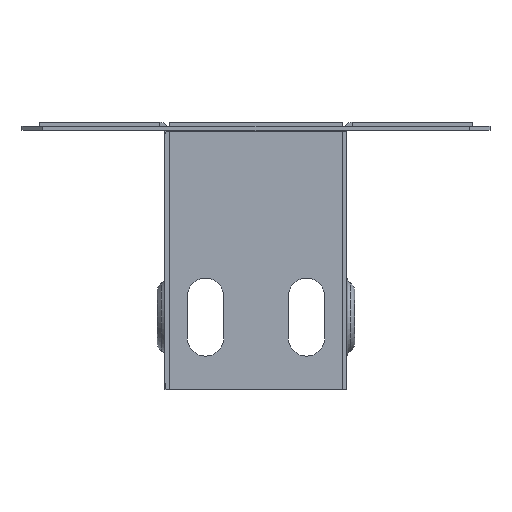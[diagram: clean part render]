
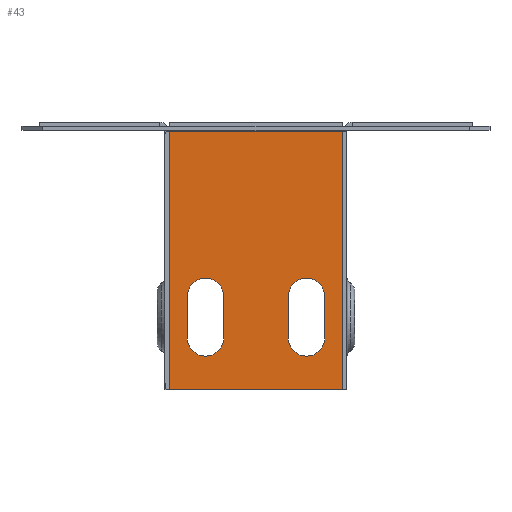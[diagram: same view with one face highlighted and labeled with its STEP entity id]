
A CAD part, left-side view. The second image highlights one B-rep face of the part: STEP entity #43.
In plain terms, the highlighted planar face has unit normal (-1, 0, 0) as drawn and (0, 1, 0) by its records, which use the part's own axes.
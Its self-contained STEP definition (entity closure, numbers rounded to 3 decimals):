
#43 = ADVANCED_FACE ( 'NONE', ( #6045, #4748, #2178 ), #6030, .F. ) ;
#45 = VERTEX_POINT ( 'NONE', #5421 ) ;
#141 = EDGE_CURVE ( 'NONE', #4843, #5959, #441, .T. ) ;
#195 = CARTESIAN_POINT ( 'NONE',  ( 9.7, 0.8, 41.5 ) ) ;
#273 = DIRECTION ( 'NONE',  ( 0., 0., 1. ) ) ;
#388 = DIRECTION ( 'NONE',  ( 0., 0., 1. ) ) ;
#436 = VECTOR ( 'NONE', #467, 1000. ) ;
#441 = CIRCLE ( 'NONE', #5817, 3.5 ) ;
#467 = DIRECTION ( 'NONE',  ( 0., 0., -1. ) ) ;
#468 = VERTEX_POINT ( 'NONE', #5717 ) ;
#499 = CARTESIAN_POINT ( 'NONE',  ( -16.7, 0.8, 0. ) ) ;
#601 = DIRECTION ( 'NONE',  ( 0., 0., -1. ) ) ;
#633 = EDGE_CURVE ( 'NONE', #4758, #3705, #5744, .T. ) ;
#673 = DIRECTION ( 'NONE',  ( 0., 0., 1. ) ) ;
#685 = CARTESIAN_POINT ( 'NONE',  ( -16.7, 0.8, 1.8 ) ) ;
#687 = EDGE_CURVE ( 'NONE', #2040, #4758, #5432, .T. ) ;
#897 = ORIENTED_EDGE ( 'NONE', *, *, #687, .T. ) ;
#985 = VECTOR ( 'NONE', #5908, 1000. ) ;
#1040 = VERTEX_POINT ( 'NONE', #3948 ) ;
#1041 = CARTESIAN_POINT ( 'NONE',  ( 13.2, 0.8, 33.5 ) ) ;
#1058 = ORIENTED_EDGE ( 'NONE', *, *, #1471, .F. ) ;
#1100 = DIRECTION ( 'NONE',  ( -1., 0., 0. ) ) ;
#1101 = CARTESIAN_POINT ( 'NONE',  ( 6.2, 0.8, 41.5 ) ) ;
#1219 = DIRECTION ( 'NONE',  ( 0., 0., 1. ) ) ;
#1227 = DIRECTION ( 'NONE',  ( 0., 1., 0. ) ) ;
#1245 = CARTESIAN_POINT ( 'NONE',  ( 9.7, 0.8, 41.5 ) ) ;
#1321 = CARTESIAN_POINT ( 'NONE',  ( 9.7, 0.8, 45. ) ) ;
#1334 = CARTESIAN_POINT ( 'NONE',  ( -6.2, 0.8, 41.5 ) ) ;
#1407 = VERTEX_POINT ( 'NONE', #2175 ) ;
#1471 = EDGE_CURVE ( 'NONE', #3485, #45, #3348, .T. ) ;
#1571 = EDGE_CURVE ( 'NONE', #2469, #1872, #5479, .T. ) ;
#1583 = DIRECTION ( 'NONE',  ( 0., 0., 1. ) ) ;
#1651 = DIRECTION ( 'NONE',  ( 0., 0., 1. ) ) ;
#1664 = VERTEX_POINT ( 'NONE', #685 ) ;
#1718 = EDGE_CURVE ( 'NONE', #1664, #45, #4704, .T. ) ;
#1738 = CARTESIAN_POINT ( 'NONE',  ( -13.2, 0.8, 41.5 ) ) ;
#1739 = ORIENTED_EDGE ( 'NONE', *, *, #5914, .F. ) ;
#1774 = DIRECTION ( 'NONE',  ( 0., 0., 1. ) ) ;
#1799 = DIRECTION ( 'NONE',  ( -1., 0., 0. ) ) ;
#1807 = ORIENTED_EDGE ( 'NONE', *, *, #2714, .F. ) ;
#1814 = CARTESIAN_POINT ( 'NONE',  ( 16.7, 0.8, 51.5 ) ) ;
#1815 = ORIENTED_EDGE ( 'NONE', *, *, #141, .T. ) ;
#1826 = DIRECTION ( 'NONE',  ( 0., -1., 0. ) ) ;
#1839 = DIRECTION ( 'NONE',  ( 0., 0., 1. ) ) ;
#1864 = AXIS2_PLACEMENT_3D ( 'NONE', #6062, #3159, #273 ) ;
#1872 = VERTEX_POINT ( 'NONE', #5605 ) ;
#1929 = LINE ( 'NONE', #1101, #4491 ) ;
#1956 = CARTESIAN_POINT ( 'NONE',  ( 13.2, 0.8, 41.5 ) ) ;
#2040 = VERTEX_POINT ( 'NONE', #5961 ) ;
#2175 = CARTESIAN_POINT ( 'NONE',  ( 6.2, 0.8, 33.5 ) ) ;
#2178 = FACE_BOUND ( 'NONE', #2254, .T. ) ;
#2208 = VECTOR ( 'NONE', #5704, 1000. ) ;
#2254 = EDGE_LOOP ( 'NONE', ( #1815, #2803, #897, #4538, #2334 ) ) ;
#2277 = LINE ( 'NONE', #1956, #985 ) ;
#2287 = CARTESIAN_POINT ( 'NONE',  ( 16.7, 0.8, 51.5 ) ) ;
#2334 = ORIENTED_EDGE ( 'NONE', *, *, #6117, .T. ) ;
#2469 = VERTEX_POINT ( 'NONE', #1321 ) ;
#2714 = EDGE_CURVE ( 'NONE', #1872, #2781, #2277, .T. ) ;
#2781 = VERTEX_POINT ( 'NONE', #1041 ) ;
#2803 = ORIENTED_EDGE ( 'NONE', *, *, #6111, .T. ) ;
#2966 = CIRCLE ( 'NONE', #5181, 3.5 ) ;
#2980 = EDGE_CURVE ( 'NONE', #1040, #3485, #3789, .T. ) ;
#3017 = DIRECTION ( 'NONE',  ( 0., -1., 0. ) ) ;
#3104 = ORIENTED_EDGE ( 'NONE', *, *, #2980, .F. ) ;
#3159 = DIRECTION ( 'NONE',  ( 0., 1., 0. ) ) ;
#3211 = CARTESIAN_POINT ( 'NONE',  ( 16.7, 0.8, 0. ) ) ;
#3348 = LINE ( 'NONE', #1814, #5931 ) ;
#3380 = CARTESIAN_POINT ( 'NONE',  ( -6.2, 0.8, 41.5 ) ) ;
#3485 = VERTEX_POINT ( 'NONE', #2287 ) ;
#3495 = LINE ( 'NONE', #1334, #2208 ) ;
#3571 = DIRECTION ( 'NONE',  ( 0., 1., 0. ) ) ;
#3705 = VERTEX_POINT ( 'NONE', #5870 ) ;
#3789 = LINE ( 'NONE', #3211, #4483 ) ;
#3820 = EDGE_CURVE ( 'NONE', #1040, #1664, #4548, .T. ) ;
#3880 = EDGE_CURVE ( 'NONE', #468, #2469, #2966, .T. ) ;
#3948 = CARTESIAN_POINT ( 'NONE',  ( 16.7, 0.8, 1.8 ) ) ;
#3994 = CARTESIAN_POINT ( 'NONE',  ( 16.7, 0.8, 1.8 ) ) ;
#4005 = EDGE_LOOP ( 'NONE', ( #1807, #4836, #4372, #6276, #1739 ) ) ;
#4192 = AXIS2_PLACEMENT_3D ( 'NONE', #6014, #3017, #601 ) ;
#4239 = AXIS2_PLACEMENT_3D ( 'NONE', #1245, #1227, #1219 ) ;
#4372 = ORIENTED_EDGE ( 'NONE', *, *, #3880, .F. ) ;
#4483 = VECTOR ( 'NONE', #1774, 1000. ) ;
#4491 = VECTOR ( 'NONE', #1583, 1000. ) ;
#4538 = ORIENTED_EDGE ( 'NONE', *, *, #633, .T. ) ;
#4548 = LINE ( 'NONE', #3994, #5847 ) ;
#4557 = VECTOR ( 'NONE', #388, 1000. ) ;
#4704 = LINE ( 'NONE', #499, #4557 ) ;
#4720 = CARTESIAN_POINT ( 'NONE',  ( -9.7, 0.8, 41.5 ) ) ;
#4748 = FACE_BOUND ( 'NONE', #4005, .T. ) ;
#4758 = VERTEX_POINT ( 'NONE', #5724 ) ;
#4836 = ORIENTED_EDGE ( 'NONE', *, *, #1571, .F. ) ;
#4843 = VERTEX_POINT ( 'NONE', #3380 ) ;
#4851 = CARTESIAN_POINT ( 'NONE',  ( -9.7, 0.8, 33.5 ) ) ;
#4915 = EDGE_LOOP ( 'NONE', ( #5364, #1058, #3104, #6049 ) ) ;
#5034 = CARTESIAN_POINT ( 'NONE',  ( -9.7, 0.8, 41.5 ) ) ;
#5052 = EDGE_CURVE ( 'NONE', #1407, #468, #1929, .T. ) ;
#5125 = CARTESIAN_POINT ( 'NONE',  ( -9.7, 0.8, 45. ) ) ;
#5181 = AXIS2_PLACEMENT_3D ( 'NONE', #195, #3571, #673 ) ;
#5202 = DIRECTION ( 'NONE',  ( 0., 0., 1. ) ) ;
#5364 = ORIENTED_EDGE ( 'NONE', *, *, #1718, .T. ) ;
#5421 = CARTESIAN_POINT ( 'NONE',  ( -16.7, 0.8, 51.5 ) ) ;
#5432 = LINE ( 'NONE', #1738, #436 ) ;
#5479 = CIRCLE ( 'NONE', #4239, 3.5 ) ;
#5513 = DIRECTION ( 'NONE',  ( 0., -1., 0. ) ) ;
#5581 = AXIS2_PLACEMENT_3D ( 'NONE', #4851, #5903, #1839 ) ;
#5605 = CARTESIAN_POINT ( 'NONE',  ( 13.2, 0.8, 41.5 ) ) ;
#5701 = CIRCLE ( 'NONE', #1864, 3.5 ) ;
#5704 = DIRECTION ( 'NONE',  ( 0., 0., 1. ) ) ;
#5717 = CARTESIAN_POINT ( 'NONE',  ( 6.2, 0.8, 41.5 ) ) ;
#5724 = CARTESIAN_POINT ( 'NONE',  ( -13.2, 0.8, 33.5 ) ) ;
#5744 = CIRCLE ( 'NONE', #5581, 3.5 ) ;
#5762 = AXIS2_PLACEMENT_3D ( 'NONE', #4720, #1826, #5202 ) ;
#5817 = AXIS2_PLACEMENT_3D ( 'NONE', #5034, #5513, #1651 ) ;
#5847 = VECTOR ( 'NONE', #1100, 1000. ) ;
#5870 = CARTESIAN_POINT ( 'NONE',  ( -6.2, 0.8, 33.5 ) ) ;
#5903 = DIRECTION ( 'NONE',  ( 0., -1., 0. ) ) ;
#5908 = DIRECTION ( 'NONE',  ( 0., 0., -1. ) ) ;
#5914 = EDGE_CURVE ( 'NONE', #2781, #1407, #5701, .T. ) ;
#5931 = VECTOR ( 'NONE', #1799, 1000. ) ;
#5959 = VERTEX_POINT ( 'NONE', #5125 ) ;
#5961 = CARTESIAN_POINT ( 'NONE',  ( -13.2, 0.8, 41.5 ) ) ;
#6014 = CARTESIAN_POINT ( 'NONE',  ( 16.7, 0.8, 0. ) ) ;
#6030 = PLANE ( 'NONE',  #4192 ) ;
#6045 = FACE_OUTER_BOUND ( 'NONE', #4915, .T. ) ;
#6049 = ORIENTED_EDGE ( 'NONE', *, *, #3820, .T. ) ;
#6062 = CARTESIAN_POINT ( 'NONE',  ( 9.7, 0.8, 33.5 ) ) ;
#6074 = CIRCLE ( 'NONE', #5762, 3.5 ) ;
#6111 = EDGE_CURVE ( 'NONE', #5959, #2040, #6074, .T. ) ;
#6117 = EDGE_CURVE ( 'NONE', #3705, #4843, #3495, .T. ) ;
#6276 = ORIENTED_EDGE ( 'NONE', *, *, #5052, .F. ) ;
